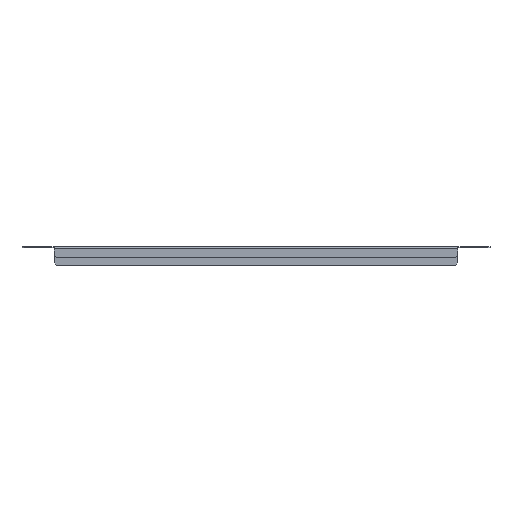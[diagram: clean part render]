
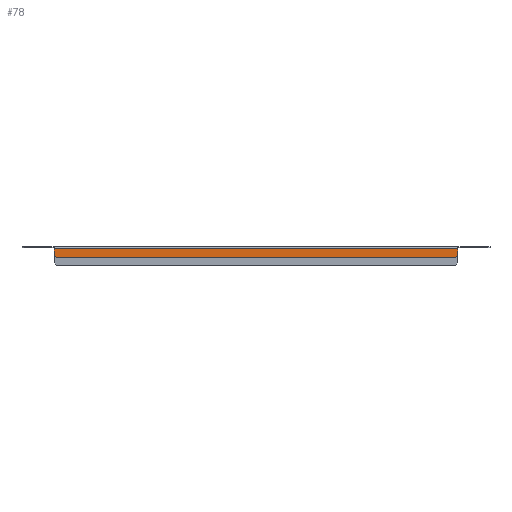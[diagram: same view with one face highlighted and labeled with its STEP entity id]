
A CAD part, front view. The second image highlights one B-rep face of the part: STEP entity #78.
In plain terms, the highlighted planar face has unit normal (0, -1, 0).
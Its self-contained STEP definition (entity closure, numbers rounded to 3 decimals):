
#47 = EDGE_CURVE ( 'NONE', #556, #558, #1000, .T. ) ;
#49 = EDGE_CURVE ( 'NONE', #552, #550, #994, .T. ) ;
#54 = EDGE_CURVE ( 'NONE', #550, #553, #979, .T. ) ;
#78 = ADVANCED_FACE ( 'NONE', ( #328 ), #895, .F. ) ;
#86 = EDGE_CURVE ( 'NONE', #556, #552, #869, .T. ) ;
#160 = AXIS2_PLACEMENT_3D ( 'NONE', #894, #893, #892 ) ;
#215 = VECTOR ( 'NONE', #977, 1000. ) ;
#261 = VECTOR ( 'NONE', #1265, 1000. ) ;
#262 = VECTOR ( 'NONE', #1271, 1000. ) ;
#328 = FACE_OUTER_BOUND ( 'NONE', #448, .T. ) ;
#333 = VECTOR ( 'NONE', #998, 1000. ) ;
#347 = VECTOR ( 'NONE', #867, 1000. ) ;
#348 = VECTOR ( 'NONE', #992, 1000. ) ;
#448 = EDGE_LOOP ( 'NONE', ( #571, #575, #573, #574, #576, #577 ) ) ;
#550 = VERTEX_POINT ( 'NONE', #712 ) ;
#552 = VERTEX_POINT ( 'NONE', #710 ) ;
#553 = VERTEX_POINT ( 'NONE', #709 ) ;
#556 = VERTEX_POINT ( 'NONE', #706 ) ;
#557 = VERTEX_POINT ( 'NONE', #705 ) ;
#558 = VERTEX_POINT ( 'NONE', #704 ) ;
#571 = ORIENTED_EDGE ( 'NONE', *, *, #1365, .F. ) ;
#573 = ORIENTED_EDGE ( 'NONE', *, *, #54, .F. ) ;
#574 = ORIENTED_EDGE ( 'NONE', *, *, #49, .F. ) ;
#575 = ORIENTED_EDGE ( 'NONE', *, *, #1367, .T. ) ;
#576 = ORIENTED_EDGE ( 'NONE', *, *, #86, .F. ) ;
#577 = ORIENTED_EDGE ( 'NONE', *, *, #47, .T. ) ;
#704 = CARTESIAN_POINT ( 'NONE',  ( -292.75, -49.5, -16.3 ) ) ;
#705 = CARTESIAN_POINT ( 'NONE',  ( 292.75, -49.5, -16.3 ) ) ;
#706 = CARTESIAN_POINT ( 'NONE',  ( -296.25, -49.5, -12.8 ) ) ;
#709 = CARTESIAN_POINT ( 'NONE',  ( 296.25, -49.5, -12.8 ) ) ;
#710 = CARTESIAN_POINT ( 'NONE',  ( -296.25, -49.5, -2.9 ) ) ;
#712 = CARTESIAN_POINT ( 'NONE',  ( 296.25, -49.5, -2.9 ) ) ;
#867 = DIRECTION ( 'NONE',  ( 0., 0., 1. ) ) ;
#868 = CARTESIAN_POINT ( 'NONE',  ( -296.25, -49.5, -27. ) ) ;
#869 = LINE ( 'NONE', #868, #347 ) ;
#892 = DIRECTION ( 'NONE',  ( 0., 0., 1. ) ) ;
#893 = DIRECTION ( 'NONE',  ( 0., 1., 0. ) ) ;
#894 = CARTESIAN_POINT ( 'NONE',  ( 296.25, -49.5, -27. ) ) ;
#895 = PLANE ( 'NONE',  #160 ) ;
#977 = DIRECTION ( 'NONE',  ( 0., 0., -1. ) ) ;
#978 = CARTESIAN_POINT ( 'NONE',  ( 296.25, -49.5, -1.4 ) ) ;
#979 = LINE ( 'NONE', #978, #215 ) ;
#992 = DIRECTION ( 'NONE',  ( 1., 0., 0. ) ) ;
#993 = CARTESIAN_POINT ( 'NONE',  ( 296.25, -49.5, -2.9 ) ) ;
#994 = LINE ( 'NONE', #993, #348 ) ;
#998 = DIRECTION ( 'NONE',  ( 0.707, 0., -0.707 ) ) ;
#999 = CARTESIAN_POINT ( 'NONE',  ( -292.75, -49.5, -16.3 ) ) ;
#1000 = LINE ( 'NONE', #999, #333 ) ;
#1263 = LINE ( 'NONE', #1264, #261 ) ;
#1264 = CARTESIAN_POINT ( 'NONE',  ( 296.25, -49.5, -16.3 ) ) ;
#1265 = DIRECTION ( 'NONE',  ( -1., 0., 0. ) ) ;
#1269 = LINE ( 'NONE', #1270, #262 ) ;
#1270 = CARTESIAN_POINT ( 'NONE',  ( 296.25, -49.5, -12.8 ) ) ;
#1271 = DIRECTION ( 'NONE',  ( 0.707, 0., 0.707 ) ) ;
#1365 = EDGE_CURVE ( 'NONE', #557, #558, #1263, .T. ) ;
#1367 = EDGE_CURVE ( 'NONE', #557, #553, #1269, .T. ) ;
